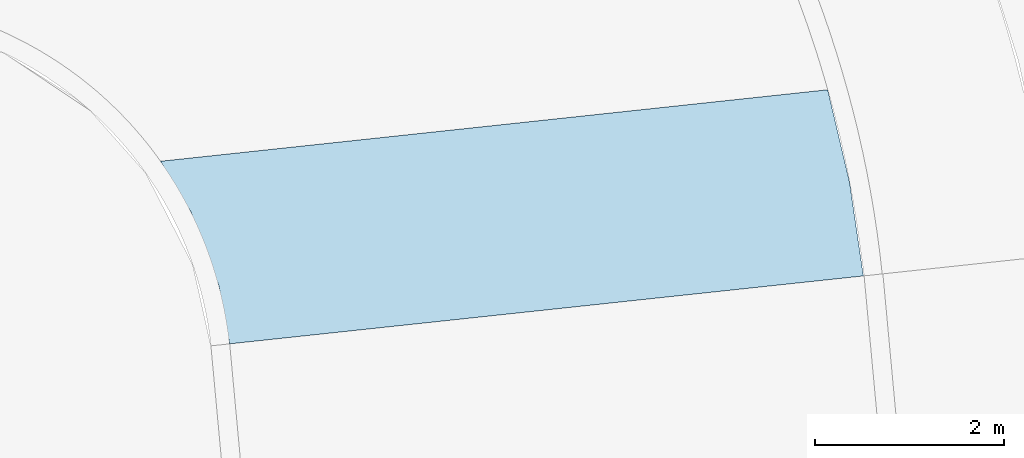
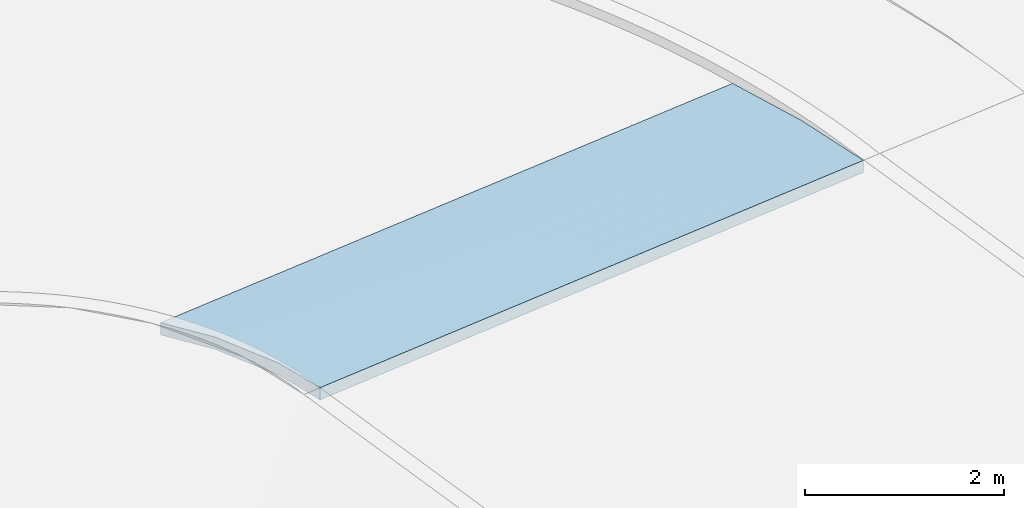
# One storey, part 48 of 75: 1 slab.
"""IFC2X3 building model written with IfcOpenShell, lengths in metres."""

from ifc_helpers import new_model, entity, si_unit, converted_unit, derived_unit, direction, origin, place, context, subcontext, project, spatial, faceted_brep, material, layer, layer_set, type_object, element, save


model = new_model("IFC2X3")

# Units and contexts
model_context = context("Model", 3, precision=1e-05, world=origin(), true_north=direction((6.123031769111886e-17, 1.0)))
body_context = subcontext(model_context, "Body", "Model", "MODEL_VIEW")
ifc_project = project(units=[si_unit("LENGTHUNIT", "METRE"), si_unit("AREAUNIT", "SQUARE_METRE"), si_unit("VOLUMEUNIT", "CUBIC_METRE"), converted_unit("PLANEANGLEUNIT", "DEGREE", entity("IfcRatioMeasure", 0.017453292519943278), si_unit("PLANEANGLEUNIT", "RADIAN"), dimensions=[0, 0, 0, 0, 0, 0, 0]), si_unit("MASSUNIT", "GRAM", prefix="KILO"), derived_unit("MASSDENSITYUNIT", [(si_unit("MASSUNIT", "GRAM", prefix="KILO"), 1), (si_unit("LENGTHUNIT", "METRE"), -3)]), derived_unit("IONCONCENTRATIONUNIT", [(si_unit("MASSUNIT", "GRAM", prefix="KILO"), 1), (si_unit("LENGTHUNIT", "METRE"), -3)]), derived_unit("MOMENTOFINERTIAUNIT", [(si_unit("LENGTHUNIT", "METRE"), 4)]), si_unit("TIMEUNIT", "SECOND"), si_unit("FREQUENCYUNIT", "HERTZ"), si_unit("THERMODYNAMICTEMPERATUREUNIT", "DEGREE_CELSIUS"), derived_unit("THERMALTRANSMITTANCEUNIT", [(si_unit("MASSUNIT", "GRAM", prefix="KILO"), 1), (si_unit("THERMODYNAMICTEMPERATUREUNIT", "KELVIN"), -1), (si_unit("TIMEUNIT", "SECOND"), -3)]), derived_unit("THERMALCONDUCTANCEUNIT", [(si_unit("MASSUNIT", "GRAM", prefix="KILO"), 1), (si_unit("THERMODYNAMICTEMPERATUREUNIT", "KELVIN"), -1), (si_unit("TIMEUNIT", "SECOND"), -3), (si_unit("LENGTHUNIT", "METRE"), 1)]), derived_unit("VOLUMETRICFLOWRATEUNIT", [(si_unit("LENGTHUNIT", "METRE"), 3), (si_unit("TIMEUNIT", "SECOND"), -1)]), derived_unit("MASSFLOWRATEUNIT", [(si_unit("MASSUNIT", "GRAM", prefix="KILO"), 1), (si_unit("TIMEUNIT", "SECOND"), -1)]), derived_unit("ROTATIONALFREQUENCYUNIT", [(si_unit("TIMEUNIT", "SECOND"), -1)]), si_unit("ELECTRICCURRENTUNIT", "AMPERE"), si_unit("ELECTRICVOLTAGEUNIT", "VOLT"), si_unit("POWERUNIT", "WATT"), si_unit("FORCEUNIT", "NEWTON", prefix="KILO"), si_unit("ILLUMINANCEUNIT", "LUX"), si_unit("LUMINOUSFLUXUNIT", "LUMEN"), si_unit("LUMINOUSINTENSITYUNIT", "CANDELA"), derived_unit("USERDEFINED", [(si_unit("MASSUNIT", "GRAM", prefix="KILO"), -1), (si_unit("LENGTHUNIT", "METRE"), -2), (si_unit("TIMEUNIT", "SECOND"), 3), (si_unit("LUMINOUSFLUXUNIT", "LUMEN"), 1)]), derived_unit("USERDEFINED", [(si_unit("MASSUNIT", "GRAM", prefix="KILO"), 1), (si_unit("TIMEUNIT", "SECOND"), -3), (si_unit("LENGTHUNIT", "METRE"), 3), (si_unit("ELECTRICCURRENTUNIT", "AMPERE"), -2)]), derived_unit("SOUNDPOWERUNIT", [(si_unit("MASSUNIT", "GRAM", prefix="KILO"), 1), (si_unit("TIMEUNIT", "SECOND"), -3), (si_unit("LENGTHUNIT", "METRE"), 2)]), derived_unit("SOUNDPRESSUREUNIT", [(si_unit("MASSUNIT", "GRAM", prefix="KILO"), 1), (si_unit("LENGTHUNIT", "METRE"), -1), (si_unit("TIMEUNIT", "SECOND"), -2)]), derived_unit("LINEARVELOCITYUNIT", [(si_unit("LENGTHUNIT", "METRE"), 1), (si_unit("TIMEUNIT", "SECOND"), -1)]), si_unit("PRESSUREUNIT", "PASCAL"), derived_unit("USERDEFINED", [(si_unit("MASSUNIT", "GRAM", prefix="KILO"), 1), (si_unit("LENGTHUNIT", "METRE"), -2), (si_unit("TIMEUNIT", "SECOND"), -2)]), derived_unit("LINEARFORCEUNIT", [(si_unit("MASSUNIT", "GRAM", prefix="KILO"), 1), (si_unit("TIMEUNIT", "SECOND"), -2)]), derived_unit("PLANARFORCEUNIT", [(si_unit("MASSUNIT", "GRAM", prefix="KILO"), 1), (si_unit("LENGTHUNIT", "METRE"), -1), (si_unit("TIMEUNIT", "SECOND"), -2)]), derived_unit("SPECIFICHEATCAPACITYUNIT", [(si_unit("THERMODYNAMICTEMPERATUREUNIT", "KELVIN"), -1), (si_unit("LENGTHUNIT", "METRE"), 2), (si_unit("TIMEUNIT", "SECOND"), -2)]), derived_unit("HEATINGVALUEUNIT", [(si_unit("LENGTHUNIT", "METRE"), 2), (si_unit("TIMEUNIT", "SECOND"), -2)]), derived_unit("VAPORPERMEABILITYUNIT", [(si_unit("LENGTHUNIT", "METRE"), -1), (si_unit("TIMEUNIT", "SECOND"), 1)]), derived_unit("DYNAMICVISCOSITYUNIT", [(si_unit("MASSUNIT", "GRAM", prefix="KILO"), 1), (si_unit("TIMEUNIT", "SECOND"), -1), (si_unit("LENGTHUNIT", "METRE"), -1)]), derived_unit("THERMALEXPANSIONCOEFFICIENTUNIT", [(si_unit("THERMODYNAMICTEMPERATUREUNIT", "KELVIN"), -1)]), derived_unit("MODULUSOFELASTICITYUNIT", [(si_unit("MASSUNIT", "GRAM", prefix="KILO"), 1), (si_unit("LENGTHUNIT", "METRE"), -1), (si_unit("TIMEUNIT", "SECOND"), -2)]), derived_unit("ISOTHERMALMOISTURECAPACITYUNIT", [(si_unit("LENGTHUNIT", "METRE"), 3), (si_unit("MASSUNIT", "GRAM", prefix="KILO"), -1)]), derived_unit("MOISTUREDIFFUSIVITYUNIT", [(si_unit("TIMEUNIT", "SECOND"), -1), (si_unit("LENGTHUNIT", "METRE"), 2)])], contexts=[model_context])

# Site, building, storey
site_placement = place(None, origin())
site = spatial("IfcSite", under=ifc_project, at=site_placement, Name="Default", CompositionType="ELEMENT")
building_placement = place(site_placement, origin())
building = spatial("IfcBuilding", under=site, at=building_placement, Name="Projeto", CompositionType="ELEMENT")
storey_placement = place(building_placement, origin())
storey = spatial("IfcBuildingStorey", under=building, at=storey_placement, Name="Nível 1", CompositionType="ELEMENT", Elevation=0.0)

# Slab
ifc_material = material(Name="Piso CAJOI PASSEIO")
ifc_layer = layer(ifc_material, 0.14999999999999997)
ifc_layer_set = layer_set([ifc_layer], Name="Piso:Basalto Flameado 20x10cm")
slab_type = type_object("IfcSlabType", Name="Piso:Basalto Flameado 20x10cm", PredefinedType="FLOOR", material=ifc_layer_set)
slab_placement = place(storey_placement, origin())
element("IfcSlab", 1, at=slab_placement, inside=storey, type_object=slab_type, material=ifc_material, Name="Piso:Basalto Flameado 20x10cm", ObjectType="Piso:Basalto Flameado 20x10cm", PredefinedType="FLOOR", context=body_context, shape_type="Brep", body=[
    faceted_brep([(33.98065392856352, 38.932769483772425, -2.72), (34.21141230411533, 37.9553166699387, -2.81), (34.153710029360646, 38.199677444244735, -2.8249999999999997), (34.03833929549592, 38.68840547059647, -2.705), (34.096024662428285, 38.4440414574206, -2.69), (34.15371002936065, 38.199677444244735, -2.6749999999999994), (34.358217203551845, 36.961781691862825, -2.7499999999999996), (34.21141230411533, 37.9553166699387, -2.6599999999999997), (34.248100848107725, 37.70693049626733, -2.6449999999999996), (34.32151175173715, 37.21016462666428, -2.7649999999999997), (34.28480629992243, 37.45854756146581, -2.78), (34.248100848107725, 37.70693049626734, -2.7950000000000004), (27.64971081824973, 36.24277516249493, -2.5999999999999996), (27.649710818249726, 36.24277516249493, -2.7499999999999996), (30.689780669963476, 36.56860478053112, -2.7499999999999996), (34.358217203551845, 36.961781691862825, -2.5999999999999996), (30.689780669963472, 36.56860478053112, -2.5999999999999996), (27.53544039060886, 36.85844926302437, -2.636), (27.53544039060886, 36.85844926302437, -2.786), (27.592574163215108, 36.55061182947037, -2.768), (27.24009234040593, 37.6387730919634, -2.8339999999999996), (27.387766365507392, 37.248611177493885, -2.8099999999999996), (27.461603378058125, 37.053530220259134, -2.648), (27.387766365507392, 37.248611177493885, -2.6599999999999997), (27.24009234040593, 37.6387730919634, -2.6839999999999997), (27.592574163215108, 36.55061182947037, -2.618), (26.918067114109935, 38.175813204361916, -2.72), (26.918067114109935, 38.175813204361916, -2.87), (27.079078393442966, 37.907292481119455, -2.852), (27.079078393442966, 37.907292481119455, -2.702), (33.98065392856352, 38.932769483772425, -2.87), (30.11859677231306, 38.518840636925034, -2.8699999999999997), (30.118601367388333, 38.518841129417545, -2.72), (31.1213807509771, 37.00066099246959, -2.622500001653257), (31.11467201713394, 37.241965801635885, -2.636675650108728), (34.32151175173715, 37.21016462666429, -2.6149999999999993), (34.28480629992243, 37.45854756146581, -2.63), (30.742126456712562, 38.216233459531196, -2.6971691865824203), (30.954502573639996, 37.99663982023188, -2.68250000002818), (30.84315046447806, 37.48257551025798, -2.6525000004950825), (30.770285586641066, 37.73779089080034, -2.6681018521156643), (31.121380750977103, 37.0006609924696, -2.7725000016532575), (31.114672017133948, 37.241965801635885, -2.7866756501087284), (30.954502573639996, 37.996639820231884, -2.8325000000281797), (30.770285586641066, 37.73779089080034, -2.818101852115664), (34.09602466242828, 38.4440414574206, -2.84), (30.742126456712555, 38.216233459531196, -2.8471691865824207), (30.84315046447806, 37.48257551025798, -2.802500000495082), (34.038339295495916, 38.68840547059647, -2.855)], [[[0, 1, 2]], [[1, 0, 3, 4, 5]], [[6, 7, 8]], [[7, 6, 9, 10, 11]], [[12, 13, 14, 6, 15, 16]], [[17, 18, 19]], [[20, 21, 18, 17, 22, 23, 24]], [[13, 12, 25]], [[26, 27, 28]], [[20, 24, 29]], [[0, 30, 31, 27, 26, 32]], [[17, 25, 33]], [[16, 33, 25]], [[33, 34, 17]], [[33, 35, 36]], [[37, 38, 4]], [[33, 36, 34]], [[35, 16, 15]], [[24, 38, 37]], [[16, 35, 33]], [[34, 8, 39]], [[12, 16, 25]], [[40, 5, 38]], [[39, 8, 7]], [[40, 23, 39]], [[34, 36, 8]], [[34, 39, 17]], [[40, 39, 7]], [[39, 23, 22, 17]], [[5, 4, 38]], [[24, 23, 40]], [[40, 7, 5]], [[24, 37, 29]], [[40, 38, 24]], [[26, 29, 32]], [[37, 3, 32]], [[37, 4, 3]], [[3, 0, 32]], [[29, 37, 32]], [[41, 19, 18]], [[19, 41, 14]], [[18, 42, 41]], [[43, 2, 44]], [[45, 43, 46]], [[42, 10, 41]], [[6, 14, 9]], [[46, 43, 20]], [[41, 9, 14]], [[47, 11, 42]], [[19, 14, 13]], [[10, 9, 41]], [[1, 11, 47]], [[47, 21, 44]], [[11, 10, 42]], [[18, 47, 42]], [[1, 47, 44]], [[18, 21, 47]], [[43, 45, 2]], [[44, 21, 20]], [[2, 1, 44]], [[28, 46, 20]], [[20, 43, 44]], [[31, 28, 27]], [[31, 48, 46]], [[48, 45, 46]], [[31, 30, 48]], [[31, 46, 28]], [[0, 2, 45, 48, 30]], [[1, 5, 7]], [[6, 8, 36, 35, 15]], [[7, 11, 1]], [[17, 19, 13]], [[13, 25, 17]], [[26, 28, 20]], [[20, 29, 26]]]),
])

save(model, "model.ifc")
